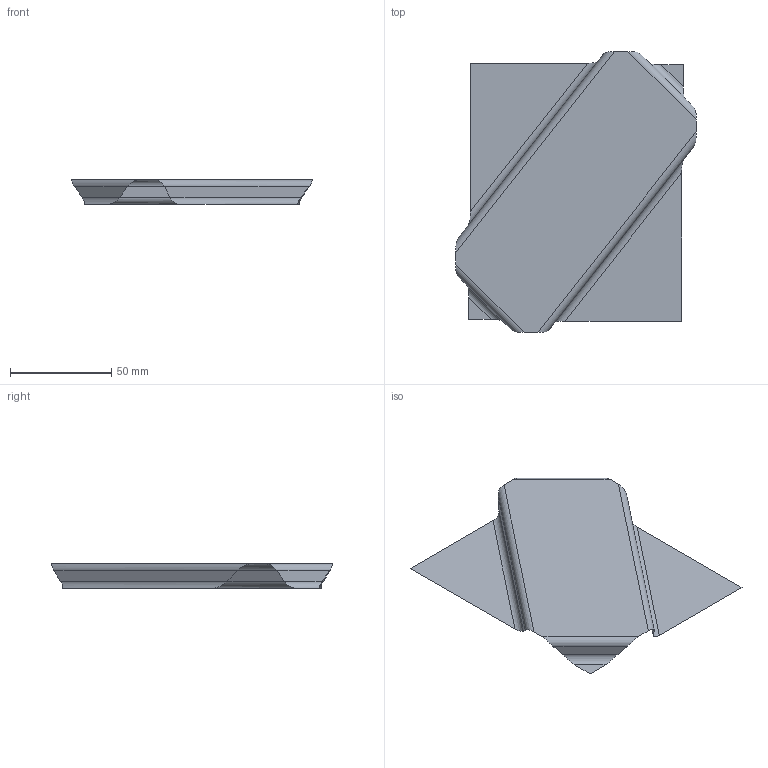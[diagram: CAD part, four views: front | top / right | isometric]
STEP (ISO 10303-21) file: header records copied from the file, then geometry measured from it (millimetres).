
FILE_DESCRIPTION(('CATIA V5 STEP Exchange'),'2;1');
FILE_NAME('C:\_Andres\UNIVERSIDAD\IQS\ASIGNATURAS\DAO\EXF\EXF-15161c\1original\Wand_Domenech_Ej03-chapa_v29.stp','2016-03-04T16:56:20+00:00',('none'),('none'),'CATIA Version 5 Release 20 SP 1 (IN-10)','CATIA V5 STEP AP203','none');
FILE_SCHEMA(('CONFIG_CONTROL_DESIGN'));
Length unit declared in the file: millimetre
Products named in the file (1): Wand_Domenech_Ej03-chapa_v29
Bounding box: 119.01 x 139.01 x 12.29 mm (x, y, z)
Surface area: 16590.4 mm2 (no closed solid volume)
Topology: 0 solids, 1 shells, 17 faces, 52 edges, 36 vertices
Faces by surface type: plane 9, cylinder 8
Entity records: 624 total; most frequent: CARTESIAN_POINT 201, ORIENTED_EDGE 68, DIRECTION 58, EDGE_CURVE 52, VERTEX_POINT 36, B_SPLINE_CURVE_WITH_KNOTS 30, VECTOR 22, LINE 22
